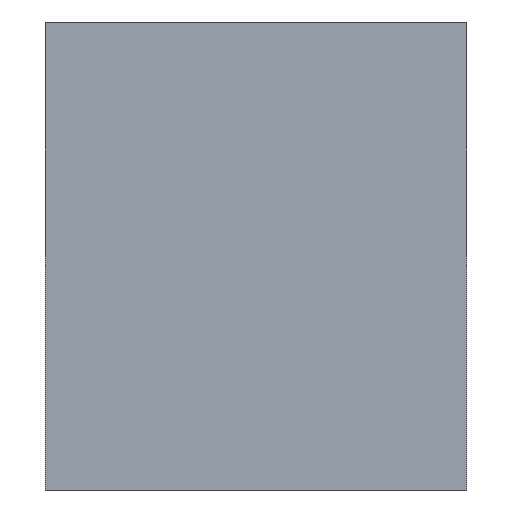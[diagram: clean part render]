
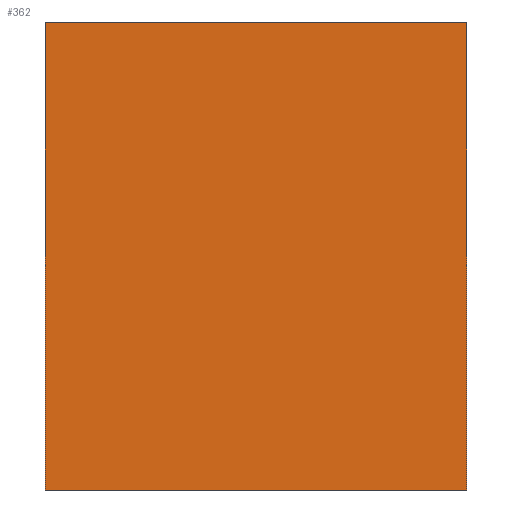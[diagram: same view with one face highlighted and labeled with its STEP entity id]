
A CAD part, left-side view. The second image highlights one B-rep face of the part: STEP entity #362.
In plain terms, the highlighted planar face has unit normal (-1, 0, 0).
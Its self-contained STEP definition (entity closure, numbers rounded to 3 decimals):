
#2 = CARTESIAN_POINT ( 'NONE',  ( 0., 0., 100. ) ) ;
#9 = DIRECTION ( 'NONE',  ( 0., 0., -1. ) ) ;
#13 = DIRECTION ( 'NONE',  ( 0., -1., 0. ) ) ;
#21 = VECTOR ( 'NONE', #238, 1000. ) ;
#32 = ORIENTED_EDGE ( 'NONE', *, *, #99, .F. ) ;
#44 = DIRECTION ( 'NONE',  ( 1., 0., 0. ) ) ;
#53 = EDGE_CURVE ( 'NONE', #286, #344, #283, .T. ) ;
#56 = ORIENTED_EDGE ( 'NONE', *, *, #325, .T. ) ;
#71 = FACE_OUTER_BOUND ( 'NONE', #172, .T. ) ;
#76 = DIRECTION ( 'NONE',  ( 0., 0., -1. ) ) ;
#77 = CARTESIAN_POINT ( 'NONE',  ( 0., 0., 100. ) ) ;
#99 = EDGE_CURVE ( 'NONE', #296, #286, #254, .T. ) ;
#104 = CARTESIAN_POINT ( 'NONE',  ( 0., 90., 100. ) ) ;
#108 = LINE ( 'NONE', #104, #225 ) ;
#146 = LINE ( 'NONE', #327, #340 ) ;
#150 = ORIENTED_EDGE ( 'NONE', *, *, #366, .T. ) ;
#165 = CARTESIAN_POINT ( 'NONE',  ( 0., 90., 100. ) ) ;
#172 = EDGE_LOOP ( 'NONE', ( #56, #299, #32, #150 ) ) ;
#185 = CARTESIAN_POINT ( 'NONE',  ( 0., 0., 100. ) ) ;
#206 = CARTESIAN_POINT ( 'NONE',  ( 0., 0., 100. ) ) ;
#213 = VECTOR ( 'NONE', #257, 1000. ) ;
#224 = AXIS2_PLACEMENT_3D ( 'NONE', #77, #44, #76 ) ;
#225 = VECTOR ( 'NONE', #9, 1000. ) ;
#238 = DIRECTION ( 'NONE',  ( 0., -1., 0. ) ) ;
#254 = LINE ( 'NONE', #2, #21 ) ;
#257 = DIRECTION ( 'NONE',  ( 0., 0., -1. ) ) ;
#274 = CARTESIAN_POINT ( 'NONE',  ( 0., 90., 0. ) ) ;
#283 = LINE ( 'NONE', #206, #213 ) ;
#286 = VERTEX_POINT ( 'NONE', #185 ) ;
#296 = VERTEX_POINT ( 'NONE', #165 ) ;
#299 = ORIENTED_EDGE ( 'NONE', *, *, #53, .F. ) ;
#325 = EDGE_CURVE ( 'NONE', #369, #344, #146, .T. ) ;
#326 = CARTESIAN_POINT ( 'NONE',  ( 0., 0., 0. ) ) ;
#327 = CARTESIAN_POINT ( 'NONE',  ( 0., 0., 0. ) ) ;
#340 = VECTOR ( 'NONE', #13, 1000. ) ;
#344 = VERTEX_POINT ( 'NONE', #326 ) ;
#361 = PLANE ( 'NONE',  #224 ) ;
#362 = ADVANCED_FACE ( 'NONE', ( #71 ), #361, .F. ) ;
#366 = EDGE_CURVE ( 'NONE', #296, #369, #108, .T. ) ;
#369 = VERTEX_POINT ( 'NONE', #274 ) ;
